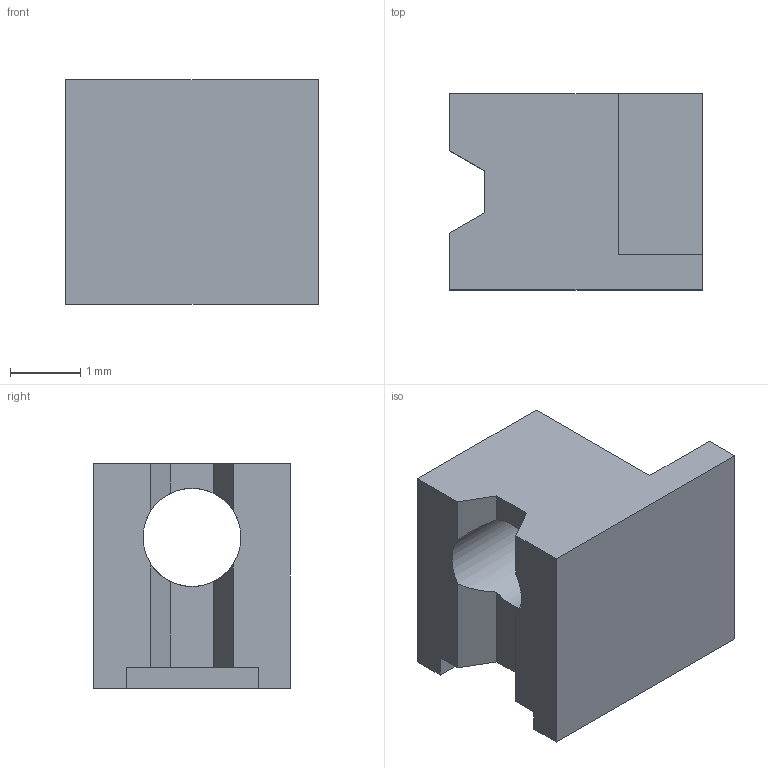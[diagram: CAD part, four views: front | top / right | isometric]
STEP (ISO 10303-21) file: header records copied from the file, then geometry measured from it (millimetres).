
FILE_DESCRIPTION(/* description */ ('STEP AP242 Edition 2','CAx-IF Rec.Pracs.---Representation and Presentation of Product Manufacturing Information (PMI)---4.0---2014-10-13','CAx-IF Rec.Pracs.---3D Tessellated Geometry---0.4---2014-09-14','2;1','CAx-IF Rec.Pracs.---User Defined Attributes---1.5---2016-08-15'),/* implementation_level */ '2;1');
FILE_NAME(/* name */ 'v2_assembly - 1473790000--3DModel-STEP-764301 (9)',/* time_stamp */ '2026-05-19T16:26:03Z',/* author */ (''),/* organization */ (''),/* preprocessor_version */ 'ST-DEVELOPER v20',/* originating_system */ 'ONSHAPE BY PTC INC, 1.215',/* authorisation */ ' ');
FILE_SCHEMA (('AP242_MANAGED_MODEL_BASED_3D_ENGINEERING_MIM_LF { 1 0 10303 442 3 1 4 }'));
Length unit declared in the file: metre
Products named in the file (1): 1473790000--3DModel-STEP-764301
Bounding box: 3.6 x 2.8 x 3.2 mm (x, y, z)
Volume: 20.7 mm3; surface area: 68.8 mm2
Topology: 1 solids, 1 shells, 21 faces, 60 edges, 40 vertices
Faces by surface type: plane 20, cylinder 1
Full cylindrical faces by diameter (mm): 1.4 x1
Entity records: 843 total; most frequent: CARTESIAN_POINT 119, ORIENTED_EDGE 116, DIRECTION 111, EDGE_CURVE 58, LINE 49, VECTOR 49, VERTEX_POINT 39, AXIS2_PLACEMENT_3D 31
